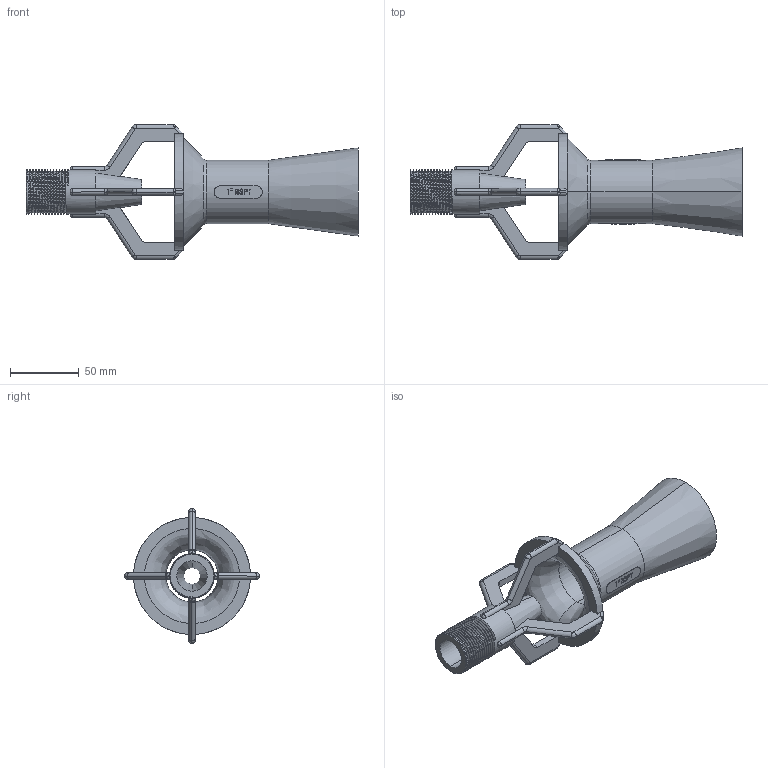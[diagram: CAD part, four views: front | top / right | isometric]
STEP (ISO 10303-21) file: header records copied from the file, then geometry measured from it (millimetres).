
FILE_DESCRIPTION (( 'STEP AP203' ), '1' );
FILE_NAME ('Bete_75562-1.STEP', '2017-02-26T15:21:56', ( '' ), ( '' ), 'SwSTEP 2.0', 'SolidWorks 2016', '' );
FILE_SCHEMA (( 'CONFIG_CONTROL_DESIGN' ));
Length unit declared in the file: millimetre
Products named in the file (1): Bete_75562-1
Bounding box: 241 x 97.99 x 97.99 mm (x, y, z)
Volume: 160021 mm3; surface area: 70846.1 mm2
Topology: 1 solids, 1 shells, 372 faces, 1006 edges, 655 vertices
Faces by surface type: plane 172, bspline 83, cylinder 79, torus 26, cone 12
Entity records: 18813 total; most frequent: CARTESIAN_POINT 10129, ORIENTED_EDGE 2012, DIRECTION 1462, EDGE_CURVE 1006, VERTEX_POINT 655, LINE 582, VECTOR 582, AXIS2_PLACEMENT_3D 440
